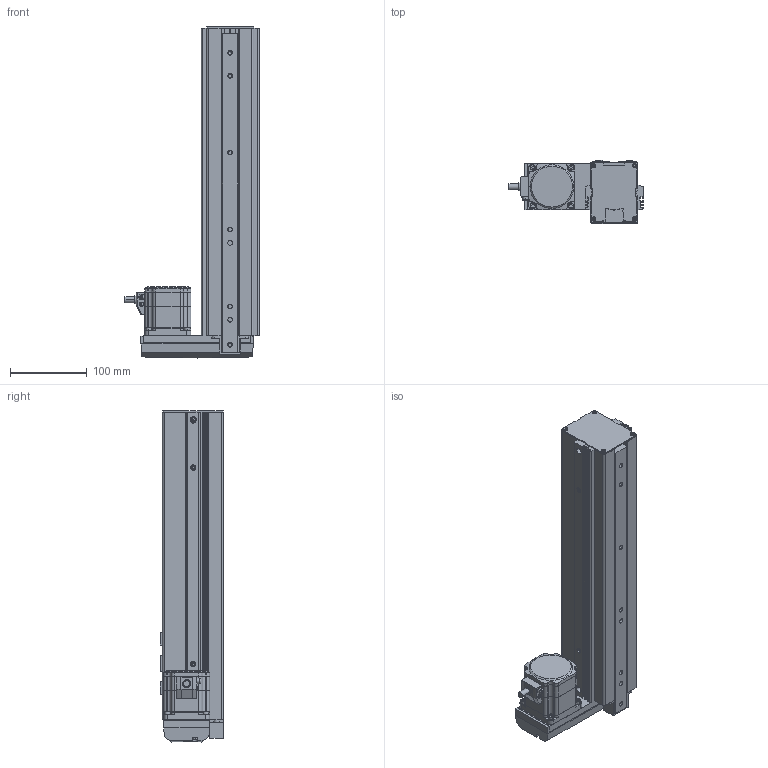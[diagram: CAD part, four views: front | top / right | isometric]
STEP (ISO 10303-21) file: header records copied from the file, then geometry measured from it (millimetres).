
FILE_DESCRIPTION (( 'STEP AP203' ), '1' );
FILE_NAME ('EASM6RYD025ARAK.step', '2013-10-10T19:27:08', ( 'om' ), ( 'Hewlett-Packard Company' ), 'SwSTEP 2.0', 'SolidWorks 2011', '' );
FILE_SCHEMA (( 'CONFIG_CONTROL_DESIGN' ));
Length unit declared in the file: millimetre
Products named in the file (4): EASM6RYD025ARAK; EASM6RYD025ARAK_Table; EASM6RYD025ARAK_BASE; EASM6RYD025ARAK_Motor
Assembly tree (3 placements, depth 2):
  EASM6RYD025ARAK
    EASM6RYD025ARAK_BASE
    EASM6RYD025ARAK_Table
    EASM6RYD025ARAK_Motor
Bounding box: 174.7 x 83 x 432.13 mm (x, y, z)
Volume: 1395807.3 mm3; surface area: 374013.3 mm2
Topology: 3 solids, 15 shells, 1179 faces, 3131 edges, 2043 vertices
Faces by surface type: plane 715, cylinder 402, cone 34, torus 24, bspline 4
Entity records: 37423 total; most frequent: CARTESIAN_POINT 6926, DIRECTION 6292, ORIENTED_EDGE 6242, EDGE_CURVE 3121, VECTOR 2162, LINE 2162, AXIS2_PLACEMENT_3D 2065, VERTEX_POINT 2043
